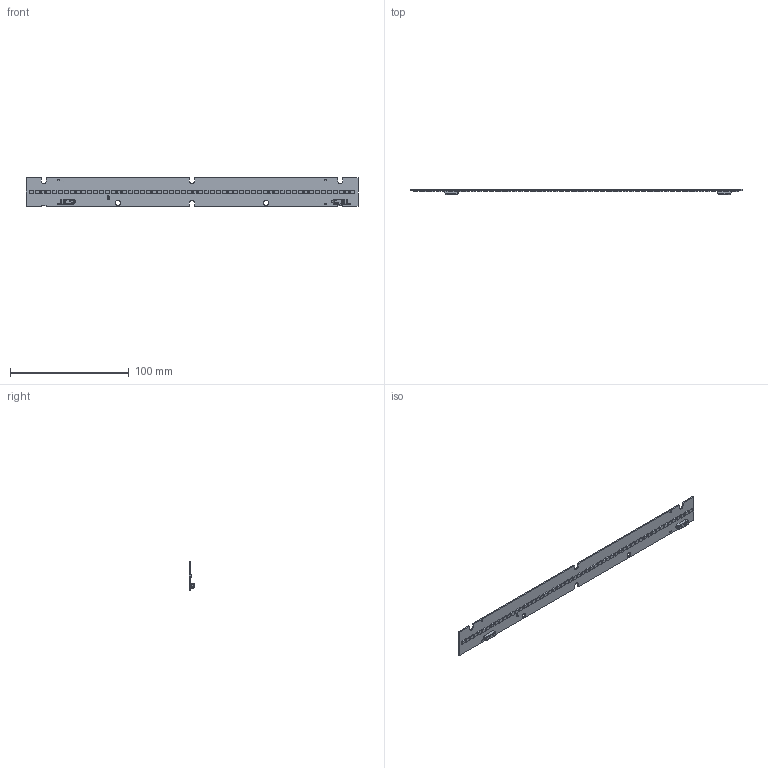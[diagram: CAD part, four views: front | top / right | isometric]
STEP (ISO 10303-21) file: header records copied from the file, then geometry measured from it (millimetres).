
FILE_DESCRIPTION(/* description */ ('Unknown'),/* implementation_level */ '2;1');
FILE_NAME(/* name */ 'LinLED 280x24mm 2000lm(56x2835) 2C sh-000 2018-06-13',/* time_stamp */ '2018-06-13T14:44:13+02:00',/* author */ ('Unknown'),/* organization */ ('Unknown'),/* preprocessor_version */ 'ST-DEVELOPER v16.7',/* originating_system */ 'DEX',/* authorisation */ $);
FILE_SCHEMA (('AUTOMOTIVE_DESIGN {1 0 10303 214 3 1 1}'));
Products named in the file (1): LinLED 280x24mm 2000lm(56x2835) 2C sh-000 2018-06-132
Bounding box: 280 x 4.5 x 24 mm (x, y, z)
Volume: 7324.5 mm3; surface area: 14985.2 mm2
Topology: 3 solids, 3 shells, 1511 faces, 3909 edges, 2534 vertices
Faces by surface type: plane 1192, cylinder 137, bspline 126, cone 30, sphere 16, torus 10
Full cylindrical faces by diameter (mm): 1.5 x1, 4.3 x2
Entity records: 55654 total; most frequent: CARTESIAN_POINT 12695, ORIENTED_EDGE 7764, DIRECTION 6484, EDGE_CURVE 3882, LINE 3208, VECTOR 3208, VERTEX_POINT 2528, EDGE_LOOP 1666
